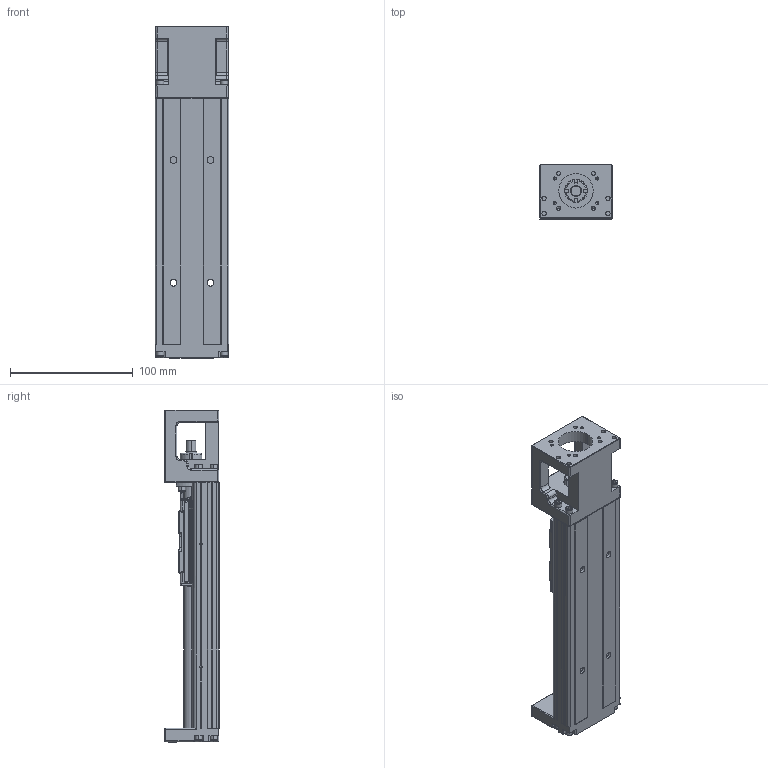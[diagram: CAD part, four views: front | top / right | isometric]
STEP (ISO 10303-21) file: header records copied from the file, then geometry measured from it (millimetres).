
FILE_DESCRIPTION (( 'STEP AP214' ), '1' );
FILE_NAME ('7.0115 KT6010C-200A1-F0.STEP', '2026-03-17T11:08:40', ( '' ), ( '' ), 'SwSTEP 2.0', 'SolidWorks 2025', '' );
FILE_SCHEMA (( 'AUTOMOTIVE_DESIGN' ));
Length unit declared in the file: millimetre
Products named in the file (3): KT60-A1; 7.0115 KT6010C-200A1-F0; KT60-K0_200
Assembly tree (2 placements, depth 2):
  7.0115 KT6010C-200A1-F0
    KT60-K0_200
    KT60-A1
Bounding box: 60 x 44.5 x 270.2 mm (x, y, z)
Volume: 314546.5 mm3; surface area: 105969.6 mm2
Topology: 21 solids, 21 shells, 1304 faces, 3451 edges, 2215 vertices
Faces by surface type: plane 667, cylinder 450, cone 92, torus 63, bspline 17, sphere 15
Entity records: 57282 total; most frequent: CARTESIAN_POINT 11541, DIRECTION 6873, ORIENTED_EDGE 6808, EDGE_CURVE 3404, AXIS2_PLACEMENT_3D 2386, VERTEX_POINT 2215, LINE 2101, VECTOR 2101
